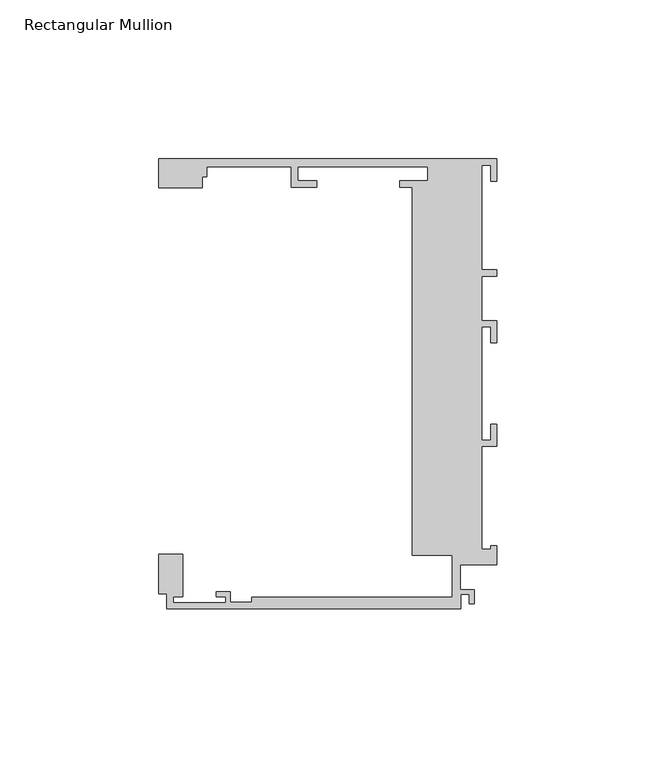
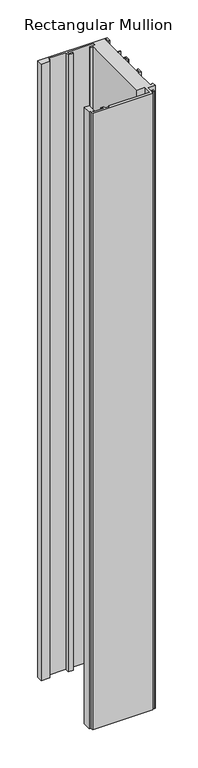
"""IFC4 building model written with IfcOpenShell, lengths in millimetres: member geometry, Rectangular Mullion : Danpal_K12_End-Mullion_B2."""

from ifc_helpers import new_model, si_unit, frame, origin, place, context, project, spatial, polyline, outline, extrude, source, transform, mapped, element, save


def rectangular_mullion_7f755270(model_context):
    return source(origin(), model_context, "Body", "SweptSolid", [
        extrude(outline(polyline([(-26.6209612, 1.9446289), (-26.6209612, 117.8676658), (-30.6, 117.8676658), (-30.6, 119.8676658), (-21.835, 119.8676658), (-21.835, 124.2676658), (-62.7350275, 124.2676658), (-62.7350275, 119.8676658), (-56.7350275, 119.8676658), (-56.7350275, 117.8676658), (-64.7350275, 117.8676658), (-64.7350275, 124.2676658), (-91.2900275, 124.2676658), (-91.2900275, 121.0676175), (-92.8228167, 121.0676175), (-92.8228167, 117.6986749), (-106.4117426, 117.6986749), (-106.4117426, 126.7676657), (0.0, 126.7676657), (0.0, 119.7676657), (-2.0, 119.7676657), (-2.0, 124.7676657), (-4.8, 124.7676657), (-4.8, 91.8676485), (0.0, 91.8676485), (0.0, 89.8676485), (-4.8, 89.8676485), (-4.8, 75.867683), (0.0, 75.867683), (0.0, 68.8676657), (-2.0, 68.8676657), (-2.0, 73.8676657), (-4.8, 73.8676657), (-4.8, 38.2443486), (-2.0, 38.2443486), (-2.0, 43.2443486), (0.0, 43.2443486), (0.0, 36.2443486), (-4.8, 36.2443486), (-4.8, 3.9448486), (-2.0, 3.9448486), (-2.0, 4.9448486), (0.0, 4.9448486), (0.0, -1.0551514), (-11.6055875, -1.0551514), (-11.6055875, -8.8006425), (-7.1518595, -8.8006425), (-7.1518595, -13.3051514), (-8.6518595, -13.3051514), (-8.6518595, -10.3006425), (-11.4019537, -10.3006425), (-11.4019537, -14.8051514), (-103.8999976, -14.8051514), (-103.8999976, -10.065304), (-106.4117426, -10.065304), (-106.4117426, 2.316674), (-98.8999976, 2.316674), (-98.8999976, -11.0051513), (-101.8999976, -11.0051513), (-101.8999976, -13.0051512), (-85.3999976, -13.0051512), (-85.3999976, -11.0051513), (-88.3999976, -11.0051513), (-88.3999976, -9.5051512), (-83.8999976, -9.5051512), (-83.8999976, -12.8051513), (-77.1531178, -12.8051513), (-77.1531178, -11.3051512), (-14.1055875, -11.3051512), (-14.1055875, 1.9446289), (-26.6209612, 1.9446289)])), frame((0.0, 0.0, -1000.0), z_axis=(0.0, 0.0, 1.0), x_axis=(1.0, 0.0, 0.0)), (0.0, 0.0, 1.0), 1000.0),
    ])


if __name__ == "__main__":
    model = new_model("IFC4")
    model_context = context("Model", 3, world=origin())
    ifc_project = project(units=[si_unit("LENGTHUNIT", "METRE", prefix="MILLI")], contexts=[model_context])
    site = spatial("IfcSite", under=ifc_project)
    building = spatial("IfcBuilding", under=site)
    placement = place(None, origin())
    rectangular_mullion_shape = rectangular_mullion_7f755270(model_context)
    element("IfcMember", 1, ObjectType="Rectangular Mullion : Danpal_K12_End-Mullion_B2", at=placement, inside=building, context=model_context, shape_type="MappedRepresentation", body=[
        mapped(rectangular_mullion_shape, transform((0.0, 0.0, 0.0), x_axis=(1.0, 0.0, 0.0), y_axis=(0.0, 1.0, 0.0), z_axis=(0.0, 0.0, 1.0))),
    ])
    save(model, "model.ifc")
